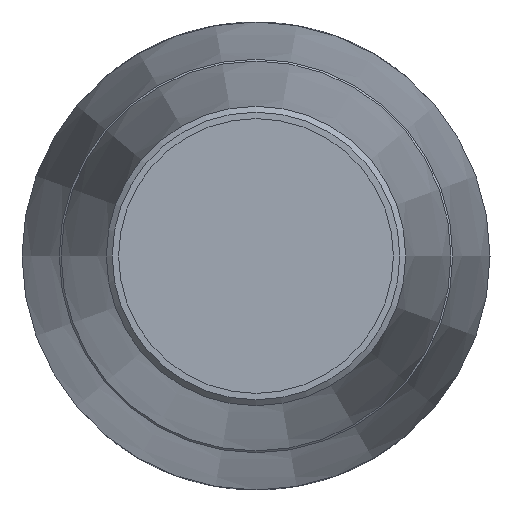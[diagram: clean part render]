
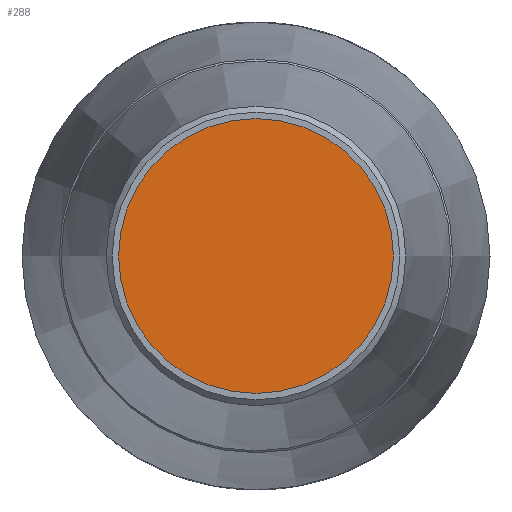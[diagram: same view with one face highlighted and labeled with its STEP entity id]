
A CAD part, left-side view. The second image highlights one B-rep face of the part: STEP entity #288.
In plain terms, the highlighted planar face has unit normal (-1, 0, 0).
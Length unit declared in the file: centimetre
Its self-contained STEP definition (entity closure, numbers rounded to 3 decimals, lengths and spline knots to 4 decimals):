
#42=PLANE('',#323);
#73=FACE_OUTER_BOUND('',#104,.T.);
#104=EDGE_LOOP('',(#210));
#132=CIRCLE('',#322,2.525);
#148=VERTEX_POINT('',#455);
#172=EDGE_CURVE('',#148,#148,#132,.T.);
#210=ORIENTED_EDGE('',*,*,#172,.T.);
#288=ADVANCED_FACE('',(#73),#42,.T.);
#322=AXIS2_PLACEMENT_3D('',#456,#383,#384);
#323=AXIS2_PLACEMENT_3D('',#457,#385,#386);
#383=DIRECTION('center_axis',(-1.,0.,0.));
#384=DIRECTION('ref_axis',(0.,0.,1.));
#385=DIRECTION('center_axis',(-1.,0.,0.));
#386=DIRECTION('ref_axis',(0.,0.,1.));
#455=CARTESIAN_POINT('',(-24.55,-2.525,0.));
#456=CARTESIAN_POINT('Origin',(-24.55,0.,0.));
#457=CARTESIAN_POINT('Origin',(-24.55,0.,0.));
